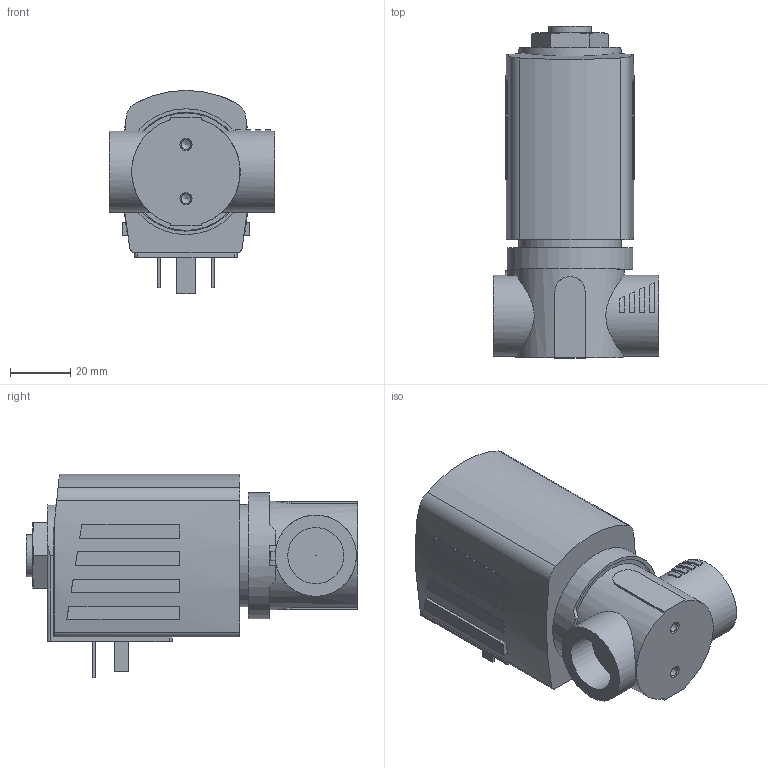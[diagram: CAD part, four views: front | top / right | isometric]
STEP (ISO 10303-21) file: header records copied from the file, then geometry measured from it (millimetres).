
FILE_DESCRIPTION(/* description */ ('STEP AP214'),/* implementation_level */ '2;1');
FILE_NAME(/* name */ '6240-366438-2_2-way_solenoid_valve__pilot-controlled',/* time_stamp */ '2024-05-10T11:04:29+02:00',/* author */ ('License CC BY-ND 4.0'),/* organization */ ('CADENAS'),/* preprocessor_version */ 'ST-DEVELOPER v19.3',/* originating_system */ 'PARTsolutions',/* authorisation */ ' ');
FILE_SCHEMA (('AUTOMOTIVE_DESIGN {1 0 10303 214 3 1 1}'));
Length unit declared in the file: millimetre
Products named in the file (3): 6240-366438-2/2-way solenoid valve, pilot-controlled; 6240-Gehaeuse-2/2-Wege-Magnetventil, vorgesteuert StandardG1/212VA; AC10ex-42SG=k-Plan-Coil
Assembly tree (2 placements, depth 2):
  6240-366438-2/2-way solenoid valve, pilot-controlled
    6240-Gehaeuse-2/2-Wege-Magnetventil, vorgesteuert StandardG1/212VA
    AC10ex-42SG=k-Plan-Coil
Bounding box: 55 x 110.2 x 67.5 mm (x, y, z)
Volume: 186087.8 mm3; surface area: 28938.8 mm2
Topology: 2 solids, 2 shells, 163 faces, 392 edges, 258 vertices
Faces by surface type: plane 117, cylinder 34, cone 12
Full cylindrical faces by diameter (mm): 0.2 x1, 2.013 x1, 3.242 x2, 14 x1, 18.631 x2, 27 x2, 34 x1, 36 x1, 39 x1, 39.5 x1, 41.8 x1
Entity records: 5850 total; most frequent: CARTESIAN_POINT 900, DIRECTION 791, ORIENTED_EDGE 724, EDGE_CURVE 362, AXIS2_PLACEMENT_3D 285, VERTEX_POINT 250, LINE 221, VECTOR 221
